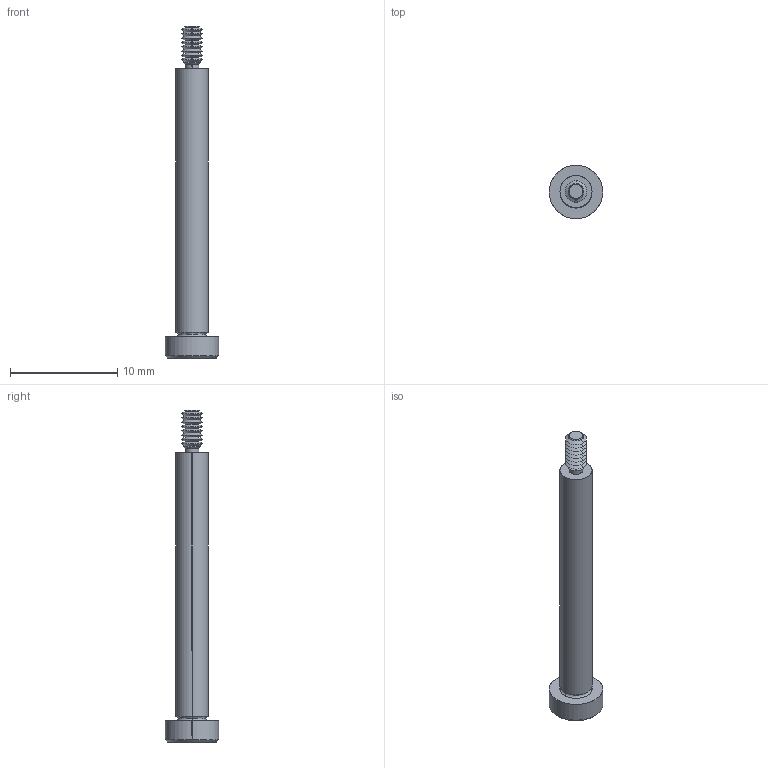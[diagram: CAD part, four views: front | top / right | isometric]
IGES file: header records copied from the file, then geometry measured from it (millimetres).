
Start section: SolidWorks IGES file using analytic representation for surfaces
Global section: file name: C:\Users\IanO\Documents\Temp Folder\GENERAL\SCREW REVISION\P0130_v2\P0130.T5_v2_20220106_IGES\P0130.030-025-T5.igs; native system: SolidWorks 2019; preprocessor: SolidWorks 2019; author: IanO; date: 220106.220326; units: millimetre
Bounding box: 5 x 5 x 31 mm (x, y, z)
Surface area: 351.9 mm2 (no closed solid volume)
Topology: 0 solids, 0 shells, 76 faces, 508 edges, 506 vertices
Faces by surface type: revolution 56, bspline 20
